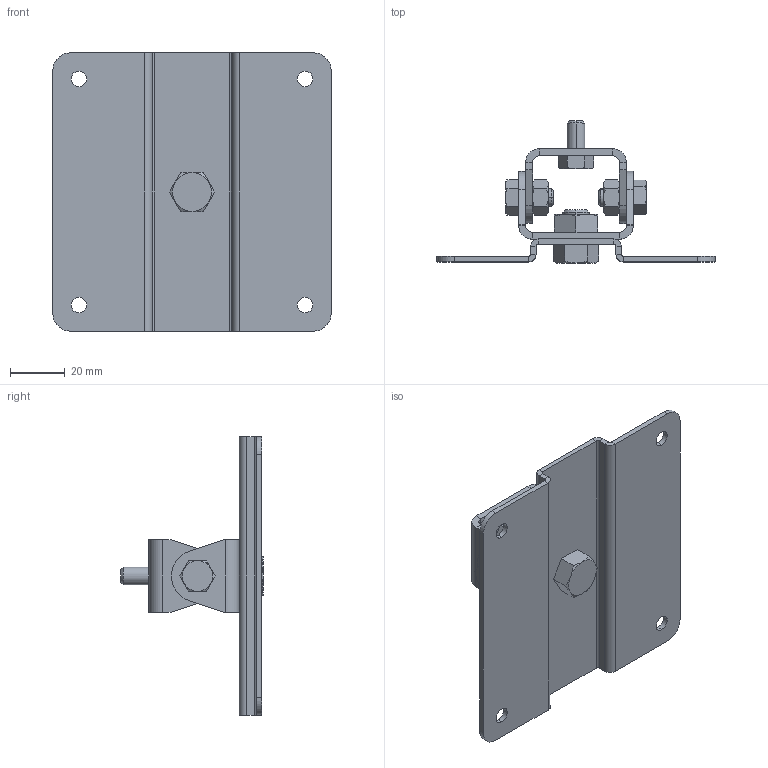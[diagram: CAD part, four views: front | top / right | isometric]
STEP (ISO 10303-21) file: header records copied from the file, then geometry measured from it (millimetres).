
FILE_DESCRIPTION (( 'STEP AP214' ), '1' );
FILE_NAME ('PMB-4X4-0.25-20.STEP', '2018-04-02T17:54:17', ( '' ), ( '' ), 'SwSTEP 2.0', 'SolidWorks 2016', '' );
FILE_SCHEMA (( 'AUTOMOTIVE_DESIGN' ));
Length unit declared in the file: inch
Products named in the file (8): hex bolt_ai_HBOLT 0.3750-16x0.5x0.5-N; machine screw nut hex_ai_MSHXNUT 0.375-16-S-N; hex bolt_ai_HBOLT 0.2500-20x0.5x0.5-N; hex nut_ai_HNUT 0.2500-20-D-N; Bracket 3_Inner; Bracket 3; PMB Base Plate; PMB-4X4-0.25-20
Assembly tree (10 placements, depth 2):
  PMB-4X4-0.25-20
    PMB Base Plate
    Bracket 3
    Bracket 3_Inner
    hex nut_ai_HNUT 0.2500-20-D-N  x2
    hex bolt_ai_HBOLT 0.2500-20x0.5x0.5-N  x3
    machine screw nut hex_ai_MSHXNUT 0.375-16-S-N
    hex bolt_ai_HBOLT 0.3750-16x0.5x0.5-N
Bounding box: 101.6 x 51.89 x 101.6 mm (x, y, z)
Volume: 37016.8 mm3; surface area: 36323.1 mm2
Topology: 10 solids, 10 shells, 272 faces, 600 edges, 352 vertices
Faces by surface type: plane 130, cone 74, cylinder 68
Entity records: 6272 total; most frequent: CARTESIAN_POINT 1289, DIRECTION 996, ORIENTED_EDGE 920, EDGE_CURVE 460, AXIS2_PLACEMENT_3D 377, VERTEX_POINT 270, LINE 242, VECTOR 242
